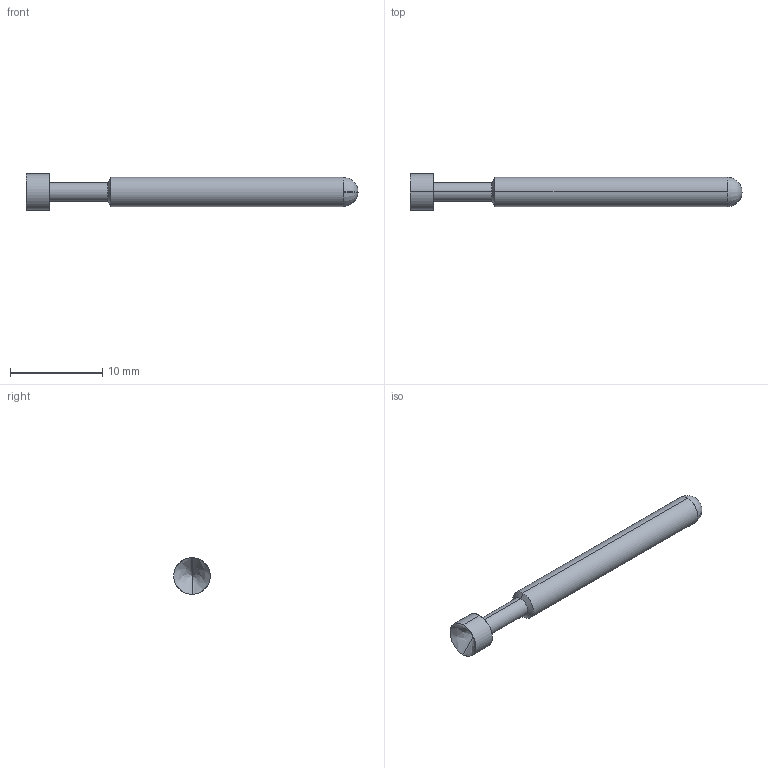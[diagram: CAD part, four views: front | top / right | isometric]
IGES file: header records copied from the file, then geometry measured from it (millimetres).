
Start section: SolidWorks IGES file using analytic representation for surfaces
Global section: file name: Z:\probe solid model mockups\Solidworks models\IGES Files\HCP-15 IGES files\HCP-15A.IGS; native system: SolidWorks 2006 by SolidWorks Corporation; preprocessor: SolidWorks 2006 by SolidWorks Corporation; author: tsakatani; date: 071202.143715; units: inch
Bounding box: 36.07 x 3.96 x 3.96 mm (x, y, z)
Surface area: 371.9 mm2 (no closed solid volume)
Topology: 0 solids, 0 shells, 13 faces, 116 edges, 112 vertices
Faces by surface type: revolution 12, bspline 1
